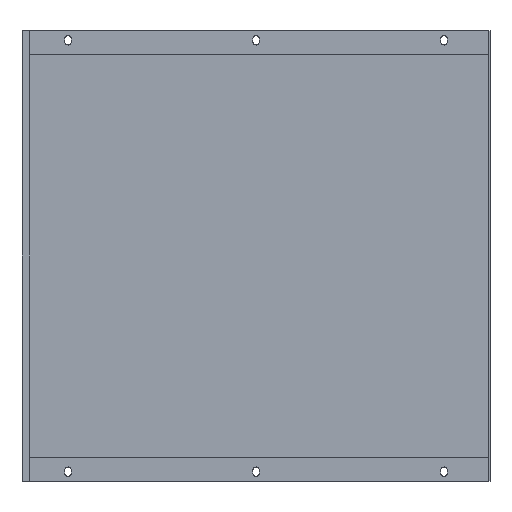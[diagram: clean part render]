
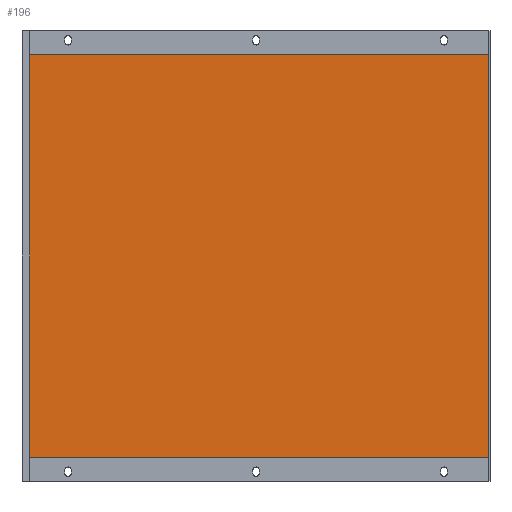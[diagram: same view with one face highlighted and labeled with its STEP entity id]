
A CAD part, front view. The second image highlights one B-rep face of the part: STEP entity #196.
In plain terms, the highlighted planar face has unit normal (0, -1, 0).
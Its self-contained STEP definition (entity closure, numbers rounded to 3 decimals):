
#16 = DIRECTION ( 'NONE',  ( 0., 1., 0. ) ) ;
#34 = CARTESIAN_POINT ( 'NONE',  ( -8., 61.1, 479. ) ) ;
#139 = VECTOR ( 'NONE', #1940, 1000. ) ;
#196 = ADVANCED_FACE ( 'NONE', ( #782 ), #1372, .F. ) ;
#253 = DIRECTION ( 'NONE',  ( 1., 0., 0. ) ) ;
#257 = CARTESIAN_POINT ( 'NONE',  ( 488.6, 61.1, 479. ) ) ;
#391 = LINE ( 'NONE', #1165, #139 ) ;
#476 = EDGE_LOOP ( 'NONE', ( #871, #1050, #690, #599 ) ) ;
#520 = DIRECTION ( 'NONE',  ( 0., 0., -1. ) ) ;
#544 = LINE ( 'NONE', #257, #770 ) ;
#573 = CARTESIAN_POINT ( 'NONE',  ( -6.6, 61.1, 454. ) ) ;
#599 = ORIENTED_EDGE ( 'NONE', *, *, #1607, .T. ) ;
#640 = DIRECTION ( 'NONE',  ( 0., 0., 1. ) ) ;
#690 = ORIENTED_EDGE ( 'NONE', *, *, #1540, .T. ) ;
#752 = DIRECTION ( 'NONE',  ( 0., 0., -1. ) ) ;
#766 = VERTEX_POINT ( 'NONE', #1173 ) ;
#770 = VECTOR ( 'NONE', #520, 1000. ) ;
#782 = FACE_OUTER_BOUND ( 'NONE', #476, .T. ) ;
#871 = ORIENTED_EDGE ( 'NONE', *, *, #1293, .T. ) ;
#905 = LINE ( 'NONE', #1508, #1476 ) ;
#946 = VERTEX_POINT ( 'NONE', #1203 ) ;
#1043 = VERTEX_POINT ( 'NONE', #573 ) ;
#1050 = ORIENTED_EDGE ( 'NONE', *, *, #1949, .F. ) ;
#1165 = CARTESIAN_POINT ( 'NONE',  ( 0., 61.1, 454. ) ) ;
#1173 = CARTESIAN_POINT ( 'NONE',  ( -6.6, 61.1, 25. ) ) ;
#1203 = CARTESIAN_POINT ( 'NONE',  ( 488.6, 61.1, 25. ) ) ;
#1293 = EDGE_CURVE ( 'NONE', #766, #946, #1458, .T. ) ;
#1372 = PLANE ( 'NONE',  #1737 ) ;
#1458 = LINE ( 'NONE', #1890, #1670 ) ;
#1476 = VECTOR ( 'NONE', #752, 1000. ) ;
#1508 = CARTESIAN_POINT ( 'NONE',  ( -6.6, 61.1, 479. ) ) ;
#1540 = EDGE_CURVE ( 'NONE', #1908, #1043, #391, .T. ) ;
#1607 = EDGE_CURVE ( 'NONE', #1043, #766, #905, .T. ) ;
#1670 = VECTOR ( 'NONE', #253, 1000. ) ;
#1737 = AXIS2_PLACEMENT_3D ( 'NONE', #34, #16, #640 ) ;
#1890 = CARTESIAN_POINT ( 'NONE',  ( 0., 61.1, 25. ) ) ;
#1891 = CARTESIAN_POINT ( 'NONE',  ( 488.6, 61.1, 454. ) ) ;
#1908 = VERTEX_POINT ( 'NONE', #1891 ) ;
#1940 = DIRECTION ( 'NONE',  ( -1., 0., 0. ) ) ;
#1949 = EDGE_CURVE ( 'NONE', #1908, #946, #544, .T. ) ;
